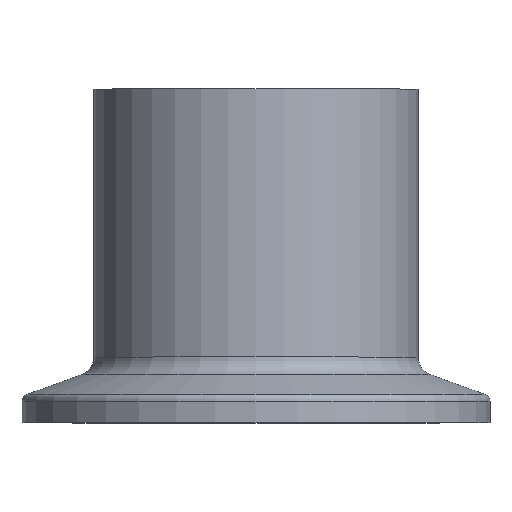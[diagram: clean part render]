
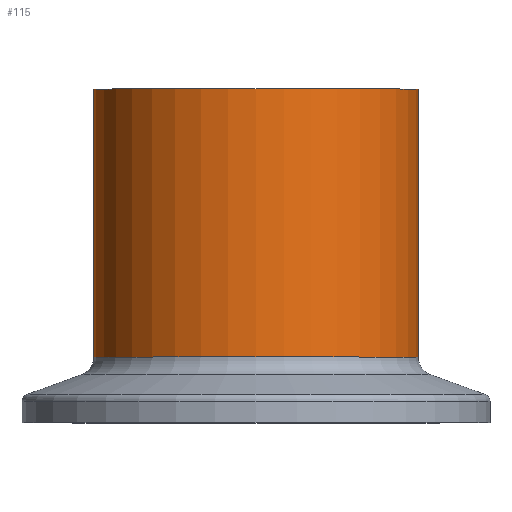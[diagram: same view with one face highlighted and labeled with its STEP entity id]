
A CAD part, top view. The second image highlights one B-rep face of the part: STEP entity #115.
In plain terms, the highlighted cylindrical face has radius 17.5 mm (diameter 35 mm), a full revolution.
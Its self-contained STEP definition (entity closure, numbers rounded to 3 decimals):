
#73=CARTESIAN_POINT('',(17.5,36.,0.0));
#74=VERTEX_POINT('',#73);
#75=CARTESIAN_POINT('',(0.0,36.,0.0));
#76=DIRECTION('',(0.0,-1.0,0.0));
#77=DIRECTION('',(1.0,0.0,0.0));
#78=AXIS2_PLACEMENT_3D('',#75,#76,#77);
#79=CIRCLE('',#78,17.5);
#80=EDGE_CURVE('',#74,#74,#79,.T.);
#96=CARTESIAN_POINT('',(0.0,21.536,0.0));
#97=DIRECTION('',(0.0,-1.0,0.0));
#98=DIRECTION('',(1.0,0.0,0.0));
#99=AXIS2_PLACEMENT_3D('',#96,#97,#98);
#100=CYLINDRICAL_SURFACE('',#99,17.5);
#101=CARTESIAN_POINT('',(17.5,7.071,0.0));
#102=VERTEX_POINT('',#101);
#103=CARTESIAN_POINT('',(0.0,7.071,0.0));
#104=DIRECTION('',(0.0,-1.0,0.0));
#105=DIRECTION('',(1.0,0.0,0.0));
#106=AXIS2_PLACEMENT_3D('',#103,#104,#105);
#107=CIRCLE('',#106,17.5);
#108=EDGE_CURVE('',#102,#102,#107,.T.);
#109=ORIENTED_EDGE('',*,*,#108,.F.);
#110=EDGE_LOOP('',(#109));
#111=FACE_OUTER_BOUND('',#110,.T.);
#112=ORIENTED_EDGE('',*,*,#80,.T.);
#113=EDGE_LOOP('',(#112));
#114=FACE_BOUND('',#113,.T.);
#115=ADVANCED_FACE('',(#111,#114),#100,.T.);
